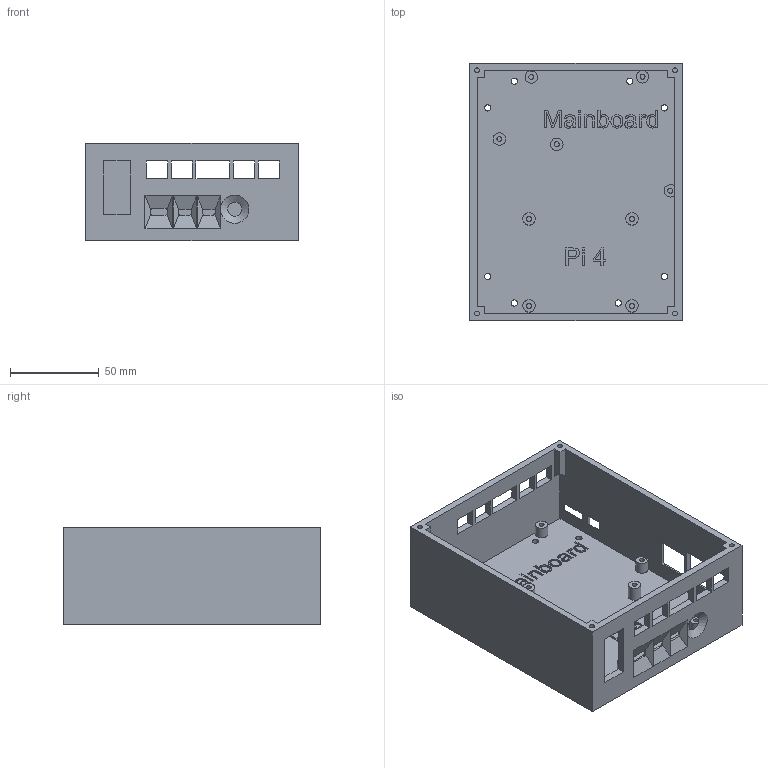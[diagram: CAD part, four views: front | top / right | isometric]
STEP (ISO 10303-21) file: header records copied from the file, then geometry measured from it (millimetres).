
FILE_DESCRIPTION(/* description */ (''),/* implementation_level */ '2;1');
FILE_NAME(/* name */ 'Electronics Backpack v8.step',/* time_stamp */ '2023-03-23T06:34:29-06:00',/* author */ (''),/* organization */ (''),/* preprocessor_version */ 'ST-DEVELOPER v19.2',/* originating_system */ 'Autodesk Translation Framework v11.17.0.187',/* authorisation */ '');
FILE_SCHEMA (('AUTOMOTIVE_DESIGN { 1 0 10303 214 3 1 1 }'));
Length unit declared in the file: millimetre
Products named in the file (1): Electronics Backpack
Bounding box: 119.5 x 145 x 55 mm (x, y, z)
Volume: 175739.5 mm3; surface area: 89409.9 mm2
Topology: 1 solids, 1 shells, 462 faces, 1240 edges, 820 vertices
Faces by surface type: plane 264, bspline 146, cylinder 50, cone 2
Full cylindrical faces by diameter (mm): 2.8 x13, 3.5 x8, 7 x7, 8 x1
Entity records: 15808 total; most frequent: CARTESIAN_POINT 5009, ORIENTED_EDGE 2480, DIRECTION 1692, EDGE_CURVE 1240, LINE 834, VECTOR 834, VERTEX_POINT 820, EDGE_LOOP 558
